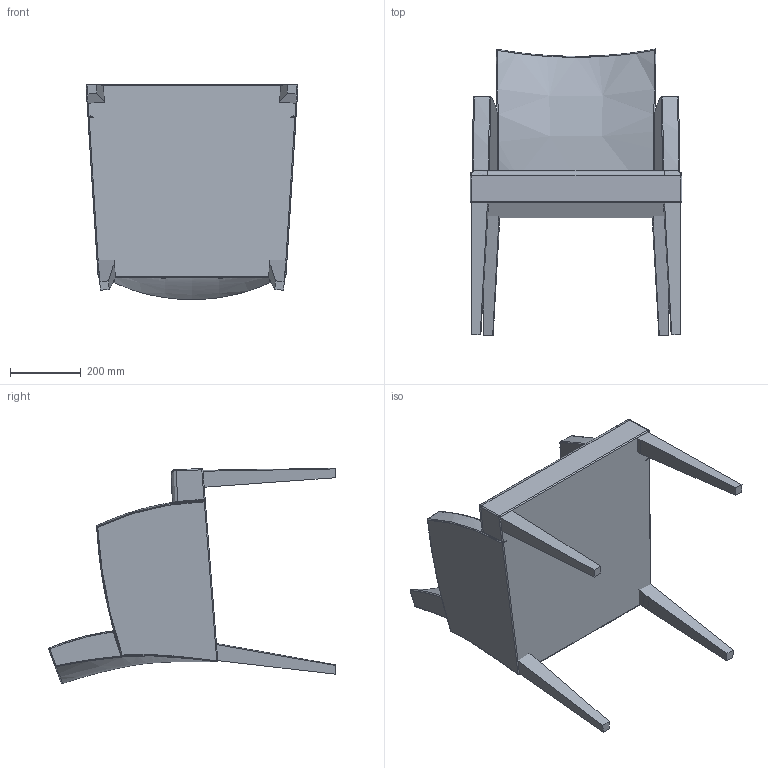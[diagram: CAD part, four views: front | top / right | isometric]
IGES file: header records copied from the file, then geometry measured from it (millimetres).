
Start section: SolidWorks IGES file using analytic representation for surfaces
Global section: file name: C:\Users\Adao\Documents\Trab Adao\Desenho técnico PRODUÇÃO\J M S\CASSIS\Linha CASSIS (sat)\CADEIRÃO M-280.IGS; native system: SolidWorks 2012; preprocessor: SolidWorks 2012; author: Adao; date: 121027.102136; units: millimetre
Bounding box: 597.6 x 807.06 x 607.08 mm (x, y, z)
Surface area: 1686462.6 mm2 (no closed solid volume)
Topology: 0 solids, 0 shells, 205 faces, 1939 edges, 1922 vertices
Faces by surface type: bspline 135, revolution 70
